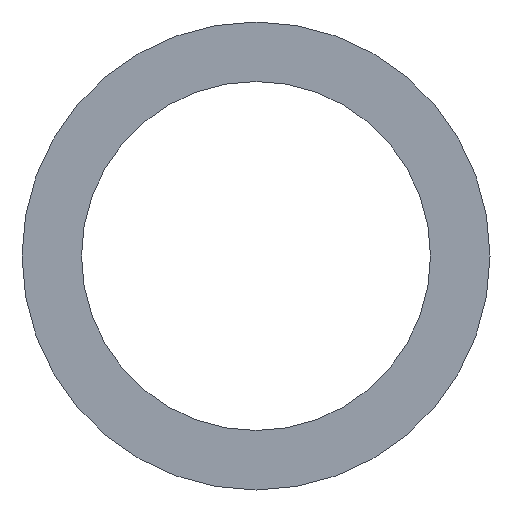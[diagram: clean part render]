
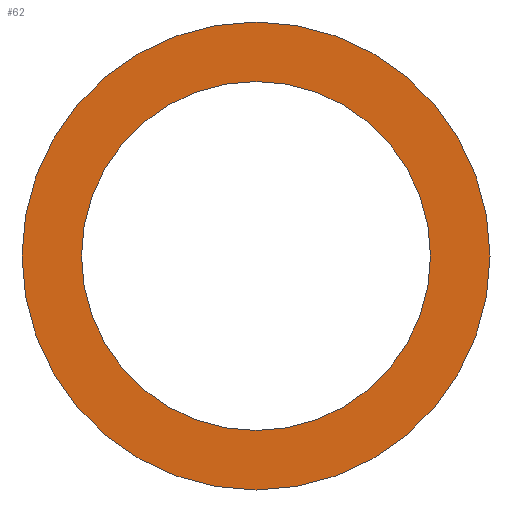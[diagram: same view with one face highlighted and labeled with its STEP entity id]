
A CAD part, front view. The second image highlights one B-rep face of the part: STEP entity #62.
In plain terms, the highlighted planar face has unit normal (0, -1, 0).
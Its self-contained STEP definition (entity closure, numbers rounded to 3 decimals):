
#20=PLANE('',#83);
#26=ORIENTED_EDGE('',*,*,#30,.T.);
#27=ORIENTED_EDGE('',*,*,#32,.F.);
#30=EDGE_CURVE('',#34,#34,#38,.T.);
#32=EDGE_CURVE('',#36,#36,#40,.T.);
#34=VERTEX_POINT('',#106);
#36=VERTEX_POINT('',#111);
#38=CIRCLE('',#78,221.5);
#40=CIRCLE('',#81,297.);
#46=EDGE_LOOP('',(#26));
#47=EDGE_LOOP('',(#27));
#54=FACE_BOUND('',#46,.T.);
#55=FACE_BOUND('',#47,.T.);
#62=ADVANCED_FACE('',(#54,#55),#20,.F.);
#78=AXIS2_PLACEMENT_3D('',#105,#89,#90);
#81=AXIS2_PLACEMENT_3D('',#110,#95,#96);
#83=AXIS2_PLACEMENT_3D('',#114,#99,#100);
#89=DIRECTION('',(0.,1.,0.));
#90=DIRECTION('',(1.,0.,0.));
#95=DIRECTION('',(0.,1.,0.));
#96=DIRECTION('',(1.,0.,0.));
#99=DIRECTION('',(0.,1.,0.));
#100=DIRECTION('',(0.,0.,1.));
#105=CARTESIAN_POINT('',(0.,-1.5,0.));
#106=CARTESIAN_POINT('',(221.5,-1.5,0.));
#110=CARTESIAN_POINT('',(0.,-1.5,0.));
#111=CARTESIAN_POINT('',(297.,-1.5,0.));
#114=CARTESIAN_POINT('',(0.,-1.5,0.));
